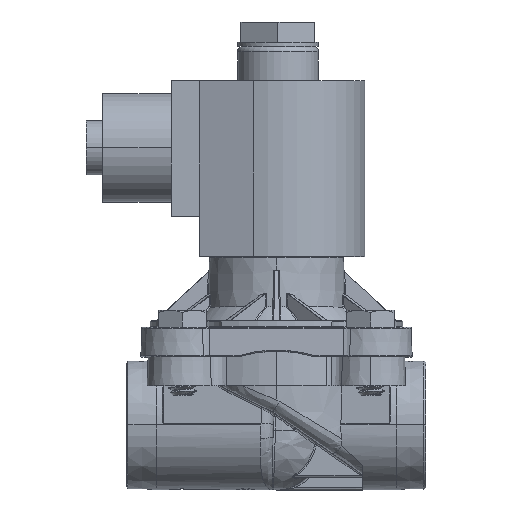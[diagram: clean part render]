
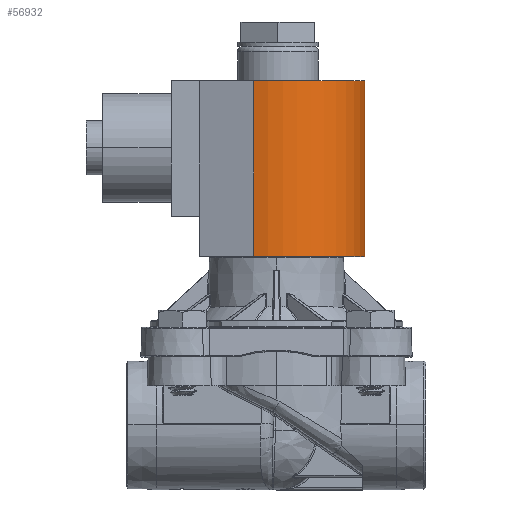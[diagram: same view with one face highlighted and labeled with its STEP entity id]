
A CAD part, top view. The second image highlights one B-rep face of the part: STEP entity #56932.
In plain terms, the highlighted cylindrical face has radius 20.32 mm (diameter 40.64 mm), a partial arc.
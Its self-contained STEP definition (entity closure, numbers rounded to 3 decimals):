
#504 = CARTESIAN_POINT ( 'NONE',  ( 0.365, 73.508, -0.652 ) ) ;
#8220 = EDGE_CURVE ( 'NONE', #87699, #89965, #13461, .T. ) ;
#10127 = DIRECTION ( 'NONE',  ( 0., 1., 0. ) ) ;
#10337 = CYLINDRICAL_SURFACE ( 'NONE', #43642, 20.32 ) ;
#13461 = CIRCLE ( 'NONE', #43412, 20.32 ) ;
#14545 = DIRECTION ( 'NONE',  ( 0., -1., 0. ) ) ;
#16644 = DIRECTION ( 'NONE',  ( 1., 0., 0. ) ) ;
#16743 = CIRCLE ( 'NONE', #53300, 20.32 ) ;
#18160 = DIRECTION ( 'NONE',  ( -1., 0., 0. ) ) ;
#18588 = ORIENTED_EDGE ( 'NONE', *, *, #39473, .T. ) ;
#20475 = LINE ( 'NONE', #68375, #76483 ) ;
#22910 = VERTEX_POINT ( 'NONE', #100991 ) ;
#32760 = LINE ( 'NONE', #64499, #45992 ) ;
#33289 = DIRECTION ( 'NONE',  ( 0., -1., 0. ) ) ;
#33452 = ORIENTED_EDGE ( 'NONE', *, *, #101947, .F. ) ;
#39473 = EDGE_CURVE ( 'NONE', #22910, #87699, #32760, .T. ) ;
#39873 = DIRECTION ( 'NONE',  ( -1., 0., 0. ) ) ;
#43412 = AXIS2_PLACEMENT_3D ( 'NONE', #59271, #75401, #18160 ) ;
#43642 = AXIS2_PLACEMENT_3D ( 'NONE', #504, #33289, #16644 ) ;
#45992 = VECTOR ( 'NONE', #14545, 1000. ) ;
#49704 = CARTESIAN_POINT ( 'NONE',  ( 0.365, 73.508, -0.652 ) ) ;
#53300 = AXIS2_PLACEMENT_3D ( 'NONE', #49704, #10127, #39873 ) ;
#54891 = CARTESIAN_POINT ( 'NONE',  ( 20.685, 73.508, -0.652 ) ) ;
#56932 = ADVANCED_FACE ( 'Defeatured_0_1744', ( #71835 ), #10337, .T. ) ;
#59271 = CARTESIAN_POINT ( 'NONE',  ( 0.365, 32.36, -0.652 ) ) ;
#64499 = CARTESIAN_POINT ( 'NONE',  ( -5.243, 73.508, 18.879 ) ) ;
#66317 = DIRECTION ( 'NONE',  ( 0., -1., 0. ) ) ;
#67096 = EDGE_LOOP ( 'NONE', ( #33452, #77671, #18588, #67937 ) ) ;
#67937 = ORIENTED_EDGE ( 'NONE', *, *, #8220, .T. ) ;
#68375 = CARTESIAN_POINT ( 'NONE',  ( 20.685, 73.508, -0.652 ) ) ;
#71835 = FACE_OUTER_BOUND ( 'NONE', #67096, .T. ) ;
#75401 = DIRECTION ( 'NONE',  ( 0., 1., 0. ) ) ;
#76483 = VECTOR ( 'NONE', #66317, 1000. ) ;
#77671 = ORIENTED_EDGE ( 'NONE', *, *, #102914, .F. ) ;
#80799 = CARTESIAN_POINT ( 'NONE',  ( -5.243, 32.36, 18.879 ) ) ;
#87699 = VERTEX_POINT ( 'NONE', #80799 ) ;
#89965 = VERTEX_POINT ( 'NONE', #90338 ) ;
#90338 = CARTESIAN_POINT ( 'NONE',  ( 20.685, 32.36, -0.652 ) ) ;
#94303 = VERTEX_POINT ( 'NONE', #54891 ) ;
#100991 = CARTESIAN_POINT ( 'NONE',  ( -5.243, 73.508, 18.879 ) ) ;
#101947 = EDGE_CURVE ( 'NONE', #94303, #89965, #20475, .T. ) ;
#102914 = EDGE_CURVE ( 'NONE', #22910, #94303, #16743, .T. ) ;
